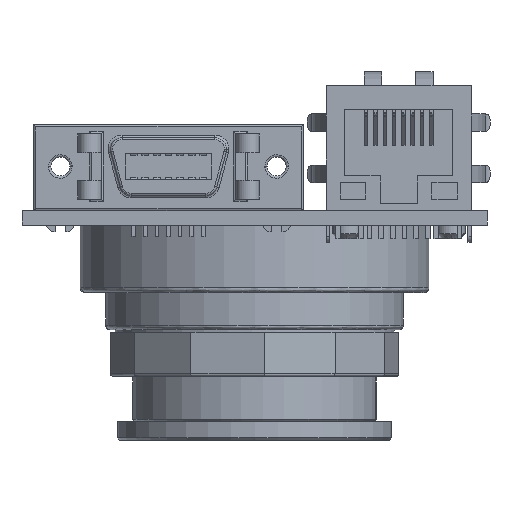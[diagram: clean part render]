
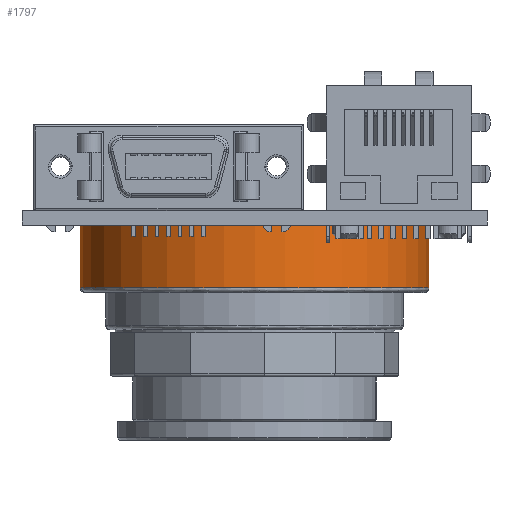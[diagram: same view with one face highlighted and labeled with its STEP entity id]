
A CAD part, front view. The second image highlights one B-rep face of the part: STEP entity #1797.
In plain terms, the highlighted cylindrical face has radius 19.05 mm (diameter 38.1 mm), a partial arc.
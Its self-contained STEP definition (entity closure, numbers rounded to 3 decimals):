
#1797 = ADVANCED_FACE ( 'NONE', ( #60546 ), #54602, .T. ) ;
#2194 = ORIENTED_EDGE ( 'NONE', *, *, #8008, .F. ) ;
#3239 = DIRECTION ( 'NONE',  ( 0., 0., -1. ) ) ;
#5384 = DIRECTION ( 'NONE',  ( -1., 0., 0. ) ) ;
#6093 = CARTESIAN_POINT ( 'NONE',  ( 0., 0., 11.43 ) ) ;
#6140 = VERTEX_POINT ( 'NONE', #16613 ) ;
#6151 = CARTESIAN_POINT ( 'NONE',  ( -19.05, 0., 11.43 ) ) ;
#6184 = DIRECTION ( 'NONE',  ( 0., 0., -1. ) ) ;
#8008 = EDGE_CURVE ( 'NONE', #52812, #6140, #8087, .T. ) ;
#8087 = LINE ( 'NONE', #9186, #62695 ) ;
#8488 = EDGE_CURVE ( 'NONE', #23048, #6140, #20621, .T. ) ;
#9186 = CARTESIAN_POINT ( 'NONE',  ( 19.05, 0., 11.43 ) ) ;
#10049 = EDGE_LOOP ( 'NONE', ( #2194, #43637, #19461, #34714 ) ) ;
#11977 = EDGE_CURVE ( 'NONE', #56960, #23048, #24268, .T. ) ;
#13760 = CARTESIAN_POINT ( 'NONE',  ( 19.05, 0., 6.858 ) ) ;
#16443 = AXIS2_PLACEMENT_3D ( 'NONE', #30601, #66867, #35934 ) ;
#16613 = CARTESIAN_POINT ( 'NONE',  ( 19.05, 0., 0. ) ) ;
#17585 = CARTESIAN_POINT ( 'NONE',  ( -19.05, 0., 0. ) ) ;
#19461 = ORIENTED_EDGE ( 'NONE', *, *, #11977, .T. ) ;
#20621 = CIRCLE ( 'NONE', #22425, 19.05 ) ;
#22425 = AXIS2_PLACEMENT_3D ( 'NONE', #26038, #25802, #25564 ) ;
#23048 = VERTEX_POINT ( 'NONE', #17585 ) ;
#24268 = LINE ( 'NONE', #6151, #49138 ) ;
#25564 = DIRECTION ( 'NONE',  ( -1., 0., 0. ) ) ;
#25802 = DIRECTION ( 'NONE',  ( 0., 0., 1. ) ) ;
#26038 = CARTESIAN_POINT ( 'NONE',  ( 0., 0., 0. ) ) ;
#30601 = CARTESIAN_POINT ( 'NONE',  ( 0., 0., 6.858 ) ) ;
#34714 = ORIENTED_EDGE ( 'NONE', *, *, #8488, .T. ) ;
#35934 = DIRECTION ( 'NONE',  ( -1., 0., 0. ) ) ;
#42634 = DIRECTION ( 'NONE',  ( 0., 0., -1. ) ) ;
#43637 = ORIENTED_EDGE ( 'NONE', *, *, #64508, .T. ) ;
#46788 = AXIS2_PLACEMENT_3D ( 'NONE', #6093, #6184, #5384 ) ;
#48757 = CIRCLE ( 'NONE', #16443, 19.05 ) ;
#49138 = VECTOR ( 'NONE', #3239, 1000. ) ;
#52812 = VERTEX_POINT ( 'NONE', #13760 ) ;
#54602 = CYLINDRICAL_SURFACE ( 'NONE', #46788, 19.05 ) ;
#56960 = VERTEX_POINT ( 'NONE', #59145 ) ;
#59145 = CARTESIAN_POINT ( 'NONE',  ( -19.05, 0., 6.858 ) ) ;
#60546 = FACE_OUTER_BOUND ( 'NONE', #10049, .T. ) ;
#62695 = VECTOR ( 'NONE', #42634, 1000. ) ;
#64508 = EDGE_CURVE ( 'NONE', #52812, #56960, #48757, .T. ) ;
#66867 = DIRECTION ( 'NONE',  ( 0., 0., -1. ) ) ;
